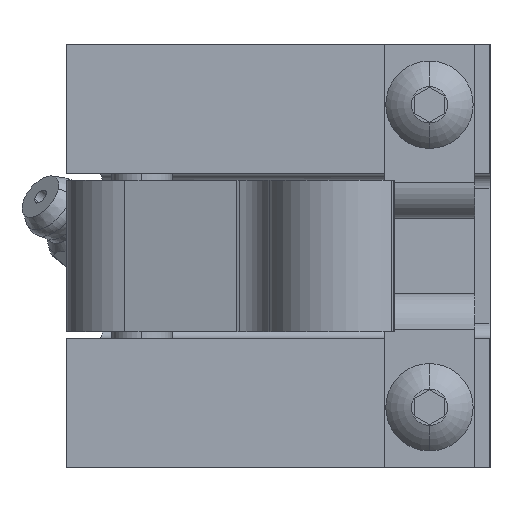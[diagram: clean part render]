
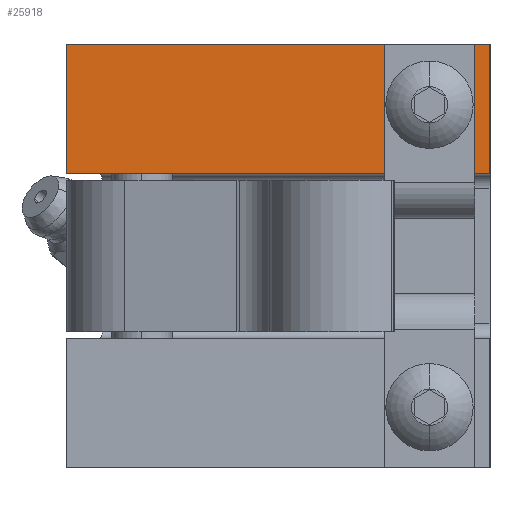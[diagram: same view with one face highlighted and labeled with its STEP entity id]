
A CAD part, left-side view. The second image highlights one B-rep face of the part: STEP entity #25918.
In plain terms, the highlighted planar face has unit normal (-1, 0, 0).
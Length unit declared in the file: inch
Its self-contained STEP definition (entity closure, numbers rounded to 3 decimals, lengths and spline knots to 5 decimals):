
#1484 = FACE_BOUND ( 'NONE', #25919, .T. ) ;
#1486 = FACE_OUTER_BOUND ( 'NONE', #26448, .T. ) ;
#1546 = DIRECTION ( 'NONE',  ( 0., 0., 1. ) ) ;
#1547 = DIRECTION ( 'NONE',  ( -1., 0., 0. ) ) ;
#1548 = CARTESIAN_POINT ( 'NONE',  ( -1.36501, -0.79048, -0.9377 ) ) ;
#1549 = AXIS2_PLACEMENT_3D ( 'NONE', #1548, #1547, #1546 ) ;
#1550 = PLANE ( 'NONE',  #1549 ) ;
#18809 = DIRECTION ( 'NONE',  ( 0., -1., 0. ) ) ;
#18810 = VECTOR ( 'NONE', #18809, 39.37008 ) ;
#18812 = CARTESIAN_POINT ( 'NONE',  ( -1.36501, -0.79048, 0.8123 ) ) ;
#18813 = LINE ( 'NONE', #18812, #18810 ) ;
#18818 = CARTESIAN_POINT ( 'NONE',  ( -1.36501, -0.79048, 0.8123 ) ) ;
#18819 = DIRECTION ( 'NONE',  ( 0., 0., 1. ) ) ;
#18820 = VECTOR ( 'NONE', #18819, 39.37008 ) ;
#18821 = CARTESIAN_POINT ( 'NONE',  ( -1.36501, -0.79048, -0.9377 ) ) ;
#18822 = LINE ( 'NONE', #18821, #18820 ) ;
#18823 = CARTESIAN_POINT ( 'NONE',  ( -1.36501, 0.95952, 0.2773 ) ) ;
#18824 = CARTESIAN_POINT ( 'NONE',  ( -1.36501, -0.79048, 0.2773 ) ) ;
#18826 = DIRECTION ( 'NONE',  ( 0., 1., 0. ) ) ;
#18827 = VECTOR ( 'NONE', #18826, 39.37008 ) ;
#18829 = CARTESIAN_POINT ( 'NONE',  ( -1.36501, -0.79048, 0.2773 ) ) ;
#18830 = LINE ( 'NONE', #18829, #18827 ) ;
#18833 = DIRECTION ( 'NONE',  ( 0., 0., 1. ) ) ;
#18834 = DIRECTION ( 'NONE',  ( -1., 0., 0. ) ) ;
#18836 = CARTESIAN_POINT ( 'NONE',  ( -1.36501, -0.54048, 0.5623 ) ) ;
#18838 = AXIS2_PLACEMENT_3D ( 'NONE', #18836, #18834, #18833 ) ;
#18839 = CIRCLE ( 'NONE', #18838, 0.0935 ) ;
#18844 = CARTESIAN_POINT ( 'NONE',  ( -1.36501, -0.54048, 0.4688 ) ) ;
#18845 = CARTESIAN_POINT ( 'NONE',  ( -1.36501, -0.54048, 0.6558 ) ) ;
#18846 = DIRECTION ( 'NONE',  ( 0., 0., 1. ) ) ;
#18848 = DIRECTION ( 'NONE',  ( -1., 0., 0. ) ) ;
#18849 = CARTESIAN_POINT ( 'NONE',  ( -1.36501, -0.54048, 0.5623 ) ) ;
#18850 = AXIS2_PLACEMENT_3D ( 'NONE', #18849, #18848, #18846 ) ;
#18852 = CIRCLE ( 'NONE', #18850, 0.0935 ) ;
#20077 = DIRECTION ( 'NONE',  ( 0., 0., 1. ) ) ;
#20078 = VECTOR ( 'NONE', #20077, 39.37008 ) ;
#20079 = CARTESIAN_POINT ( 'NONE',  ( -1.36501, 0.95952, -0.9377 ) ) ;
#20081 = LINE ( 'NONE', #20079, #20078 ) ;
#20085 = CARTESIAN_POINT ( 'NONE',  ( -1.36501, 0.95952, 0.8123 ) ) ;
#25918 = ADVANCED_FACE ( 'NONE', ( #1484, #1486 ), #1550, .T. ) ;
#25919 = EDGE_LOOP ( 'NONE', ( #26442, #26446 ) ) ;
#26442 = ORIENTED_EDGE ( 'NONE', *, *, #26443, .F. ) ;
#26443 = EDGE_CURVE ( 'NONE', #26444, #26445, #18852, .T. ) ;
#26444 = VERTEX_POINT ( 'NONE', #18845 ) ;
#26445 = VERTEX_POINT ( 'NONE', #18844 ) ;
#26446 = ORIENTED_EDGE ( 'NONE', *, *, #26447, .F. ) ;
#26447 = EDGE_CURVE ( 'NONE', #26445, #26444, #18839, .T. ) ;
#26448 = EDGE_LOOP ( 'NONE', ( #26449, #26453, #26456, #26544 ) ) ;
#26449 = ORIENTED_EDGE ( 'NONE', *, *, #26450, .F. ) ;
#26450 = EDGE_CURVE ( 'NONE', #26451, #26452, #18830, .T. ) ;
#26451 = VERTEX_POINT ( 'NONE', #18824 ) ;
#26452 = VERTEX_POINT ( 'NONE', #18823 ) ;
#26453 = ORIENTED_EDGE ( 'NONE', *, *, #26454, .T. ) ;
#26454 = EDGE_CURVE ( 'NONE', #26451, #26455, #18822, .T. ) ;
#26455 = VERTEX_POINT ( 'NONE', #18818 ) ;
#26456 = ORIENTED_EDGE ( 'NONE', *, *, #26457, .F. ) ;
#26457 = EDGE_CURVE ( 'NONE', #26543, #26455, #18813, .T. ) ;
#26543 = VERTEX_POINT ( 'NONE', #20085 ) ;
#26544 = ORIENTED_EDGE ( 'NONE', *, *, #26545, .F. ) ;
#26545 = EDGE_CURVE ( 'NONE', #26452, #26543, #20081, .T. ) ;
